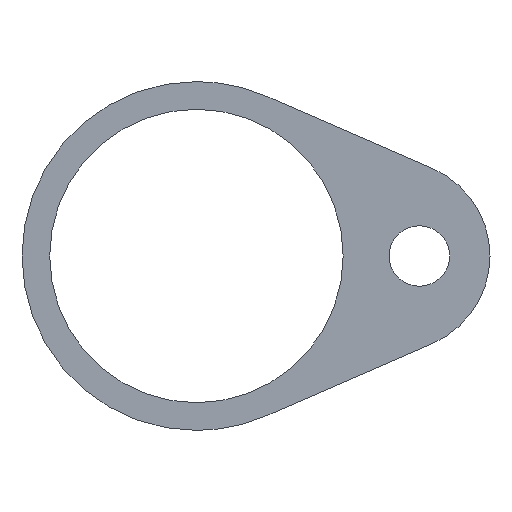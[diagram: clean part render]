
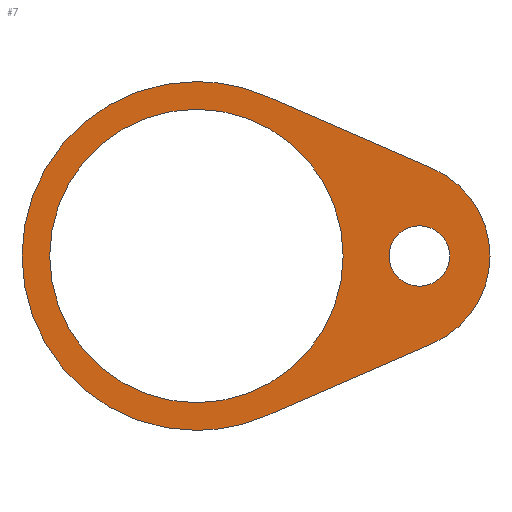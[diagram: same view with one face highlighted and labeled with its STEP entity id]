
A CAD part, front view. The second image highlights one B-rep face of the part: STEP entity #7.
In plain terms, the highlighted planar face has unit normal (0, -1, 0).
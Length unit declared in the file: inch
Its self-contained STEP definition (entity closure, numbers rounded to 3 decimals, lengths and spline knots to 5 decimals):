
#7 = ADVANCED_FACE ( 'NONE', ( #415, #409, #406 ), #65, .F. ) ;
#25 = EDGE_CURVE ( 'NONE', #84, #87, #358, .T. ) ;
#29 = EDGE_CURVE ( 'NONE', #87, #89, #370, .T. ) ;
#31 = EDGE_CURVE ( 'NONE', #67, #78, #364, .T. ) ;
#59 = DIRECTION ( 'NONE',  ( 0., 0., 1. ) ) ;
#60 = DIRECTION ( 'NONE',  ( 0., 1., 0. ) ) ;
#61 = CARTESIAN_POINT ( 'NONE',  ( 1.495, 0., -0.203 ) ) ;
#62 = CARTESIAN_POINT ( 'NONE',  ( 0., 0., 0. ) ) ;
#65 = PLANE ( 'NONE',  #267 ) ;
#66 = VERTEX_POINT ( 'NONE', #127 ) ;
#67 = VERTEX_POINT ( 'NONE', #135 ) ;
#77 = VERTEX_POINT ( 'NONE', #249 ) ;
#78 = VERTEX_POINT ( 'NONE', #107 ) ;
#81 = VERTEX_POINT ( 'NONE', #110 ) ;
#83 = VERTEX_POINT ( 'NONE', #132 ) ;
#84 = VERTEX_POINT ( 'NONE', #109 ) ;
#86 = VERTEX_POINT ( 'NONE', #61 ) ;
#87 = VERTEX_POINT ( 'NONE', #136 ) ;
#89 = VERTEX_POINT ( 'NONE', #99 ) ;
#97 = DIRECTION ( 'NONE',  ( 0., 1., 0. ) ) ;
#99 = CARTESIAN_POINT ( 'NONE',  ( 0.46654, 0., 1.07296 ) ) ;
#102 = DIRECTION ( 'NONE',  ( 0., 0., 1. ) ) ;
#107 = CARTESIAN_POINT ( 'NONE',  ( 0.46654, 0., -1.07296 ) ) ;
#109 = CARTESIAN_POINT ( 'NONE',  ( 0., 0., -1.17 ) ) ;
#110 = CARTESIAN_POINT ( 'NONE',  ( 0., 0., 0.98425 ) ) ;
#113 = DIRECTION ( 'NONE',  ( 0., 0., 1. ) ) ;
#114 = DIRECTION ( 'NONE',  ( 0., 1., 0. ) ) ;
#118 = DIRECTION ( 'NONE',  ( 0., 1., 0. ) ) ;
#120 = DIRECTION ( 'NONE',  ( 0., 0., 1. ) ) ;
#127 = CARTESIAN_POINT ( 'NONE',  ( 0., 0., -0.98425 ) ) ;
#132 = CARTESIAN_POINT ( 'NONE',  ( 1.58436, 0., 0.58692 ) ) ;
#135 = CARTESIAN_POINT ( 'NONE',  ( 1.58436, 0., -0.58692 ) ) ;
#136 = CARTESIAN_POINT ( 'NONE',  ( 0., 0., 1.17 ) ) ;
#148 = DIRECTION ( 'NONE',  ( 0., 1., 0. ) ) ;
#153 = CARTESIAN_POINT ( 'NONE',  ( 0.46654, 0., 1.07296 ) ) ;
#154 = DIRECTION ( 'NONE',  ( 0., 1., 0. ) ) ;
#159 = CARTESIAN_POINT ( 'NONE',  ( 0., 0., 0. ) ) ;
#162 = DIRECTION ( 'NONE',  ( 0., 0., 1. ) ) ;
#163 = DIRECTION ( 'NONE',  ( 0., 1., 0. ) ) ;
#168 = DIRECTION ( 'NONE',  ( 0.917, 0., -0.399 ) ) ;
#176 = DIRECTION ( 'NONE',  ( 0., 0., 1. ) ) ;
#184 = CARTESIAN_POINT ( 'NONE',  ( 0., 0., 0. ) ) ;
#185 = DIRECTION ( 'NONE',  ( 0., 0., 1. ) ) ;
#191 = DIRECTION ( 'NONE',  ( 0., 0., 1. ) ) ;
#192 = CARTESIAN_POINT ( 'NONE',  ( 1.495, 0., 0. ) ) ;
#193 = CARTESIAN_POINT ( 'NONE',  ( 0., 0., 0. ) ) ;
#194 = DIRECTION ( 'NONE',  ( 0., 1., 0. ) ) ;
#200 = DIRECTION ( 'NONE',  ( 0., 1., 0. ) ) ;
#202 = DIRECTION ( 'NONE',  ( 0., 0., 1. ) ) ;
#203 = CARTESIAN_POINT ( 'NONE',  ( 1.32916, 0., 0. ) ) ;
#224 = CARTESIAN_POINT ( 'NONE',  ( 1.495, 0., 0. ) ) ;
#231 = CARTESIAN_POINT ( 'NONE',  ( 0., 0., 0. ) ) ;
#244 = DIRECTION ( 'NONE',  ( -0.917, 0., -0.399 ) ) ;
#249 = CARTESIAN_POINT ( 'NONE',  ( 1.495, 0., 0.203 ) ) ;
#255 = CARTESIAN_POINT ( 'NONE',  ( 0.46654, 0., -1.07296 ) ) ;
#260 = CARTESIAN_POINT ( 'NONE',  ( 0., 0., 0. ) ) ;
#267 = AXIS2_PLACEMENT_3D ( 'NONE', #62, #60, #59 ) ;
#272 = EDGE_CURVE ( 'NONE', #81, #66, #357, .T. ) ;
#276 = EDGE_CURVE ( 'NONE', #78, #84, #344, .T. ) ;
#282 = EDGE_CURVE ( 'NONE', #77, #86, #337, .T. ) ;
#283 = EDGE_CURVE ( 'NONE', #83, #67, #335, .T. ) ;
#286 = EDGE_CURVE ( 'NONE', #89, #83, #338, .T. ) ;
#288 = EDGE_CURVE ( 'NONE', #66, #81, #405, .T. ) ;
#291 = AXIS2_PLACEMENT_3D ( 'NONE', #260, #114, #120 ) ;
#299 = AXIS2_PLACEMENT_3D ( 'NONE', #184, #163, #185 ) ;
#309 = AXIS2_PLACEMENT_3D ( 'NONE', #193, #200, #176 ) ;
#310 = AXIS2_PLACEMENT_3D ( 'NONE', #231, #97, #113 ) ;
#315 = AXIS2_PLACEMENT_3D ( 'NONE', #203, #148, #162 ) ;
#322 = AXIS2_PLACEMENT_3D ( 'NONE', #192, #194, #191 ) ;
#323 = AXIS2_PLACEMENT_3D ( 'NONE', #159, #154, #202 ) ;
#325 = AXIS2_PLACEMENT_3D ( 'NONE', #224, #118, #102 ) ;
#330 = EDGE_CURVE ( 'NONE', #86, #77, #346, .T. ) ;
#335 = CIRCLE ( 'NONE', #315, 0.64 ) ;
#337 = CIRCLE ( 'NONE', #322, 0.203 ) ;
#338 = LINE ( 'NONE', #153, #349 ) ;
#344 = CIRCLE ( 'NONE', #309, 1.17 ) ;
#346 = CIRCLE ( 'NONE', #325, 0.203 ) ;
#349 = VECTOR ( 'NONE', #168, 39.37008 ) ;
#357 = CIRCLE ( 'NONE', #299, 0.98425 ) ;
#358 = CIRCLE ( 'NONE', #291, 1.17 ) ;
#364 = LINE ( 'NONE', #255, #365 ) ;
#365 = VECTOR ( 'NONE', #244, 39.37008 ) ;
#370 = CIRCLE ( 'NONE', #310, 1.17 ) ;
#405 = CIRCLE ( 'NONE', #323, 0.98425 ) ;
#406 = FACE_BOUND ( 'NONE', #435, .T. ) ;
#409 = FACE_OUTER_BOUND ( 'NONE', #441, .T. ) ;
#415 = FACE_BOUND ( 'NONE', #419, .T. ) ;
#419 = EDGE_LOOP ( 'NONE', ( #476, #469 ) ) ;
#435 = EDGE_LOOP ( 'NONE', ( #470, #495 ) ) ;
#441 = EDGE_LOOP ( 'NONE', ( #507, #465, #502, #467, #484, #481 ) ) ;
#465 = ORIENTED_EDGE ( 'NONE', *, *, #31, .F. ) ;
#467 = ORIENTED_EDGE ( 'NONE', *, *, #286, .F. ) ;
#469 = ORIENTED_EDGE ( 'NONE', *, *, #272, .T. ) ;
#470 = ORIENTED_EDGE ( 'NONE', *, *, #330, .T. ) ;
#476 = ORIENTED_EDGE ( 'NONE', *, *, #288, .T. ) ;
#481 = ORIENTED_EDGE ( 'NONE', *, *, #25, .F. ) ;
#484 = ORIENTED_EDGE ( 'NONE', *, *, #29, .F. ) ;
#495 = ORIENTED_EDGE ( 'NONE', *, *, #282, .T. ) ;
#502 = ORIENTED_EDGE ( 'NONE', *, *, #283, .F. ) ;
#507 = ORIENTED_EDGE ( 'NONE', *, *, #276, .F. ) ;
